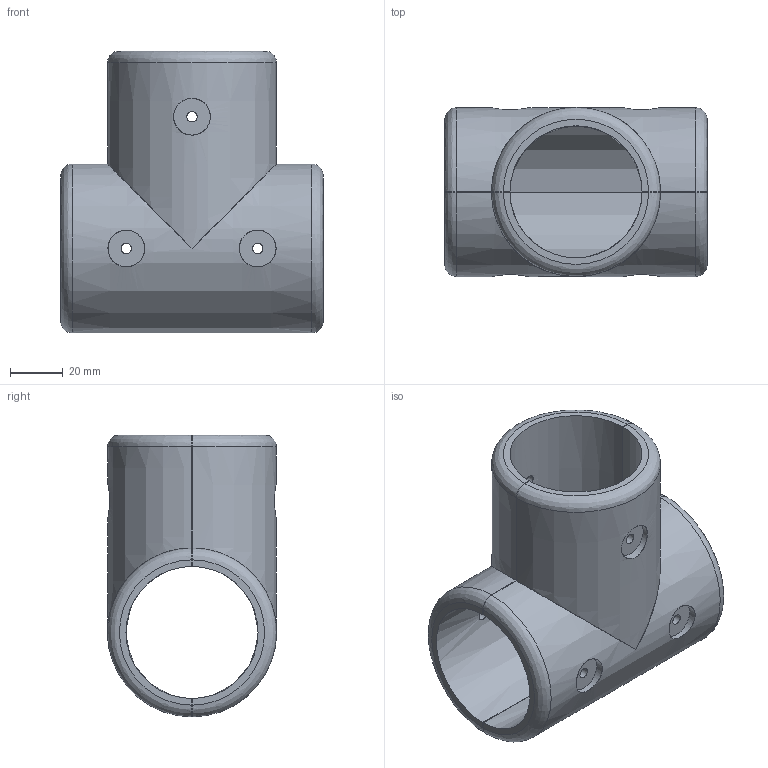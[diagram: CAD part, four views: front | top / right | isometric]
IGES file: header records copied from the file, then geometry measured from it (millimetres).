
Start section: SolidWorks IGES file using analytic representation for surfaces
Global section: file name: D:\Praca\Zlecenia prywatne\Konrad Izdebski Evergrip\KIE_018 Elementy z³¹czne\Dokumentacja\IGES\KIE_018.A12 Trójnik.IGS; native system: SolidWorks 2023; preprocessor: SolidWorks 2023; author: patry; date: 250122.195229; units: millimetre
Bounding box: 100 x 64.3 x 107.3 mm (x, y, z)
Surface area: 56298.7 mm2 (no closed solid volume)
Topology: 0 solids, 0 shells, 57 faces, 514 edges, 502 vertices
Faces by surface type: revolution 39, bspline 18
